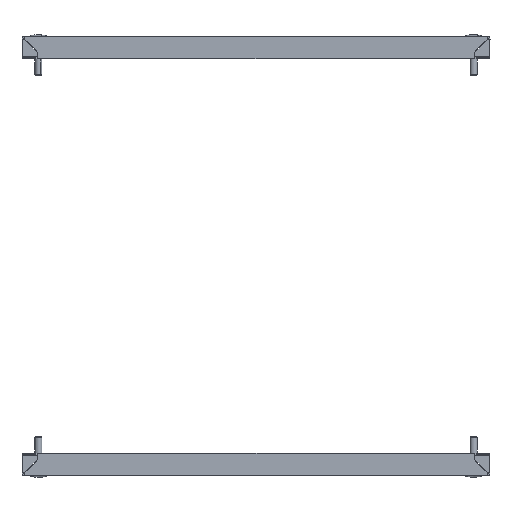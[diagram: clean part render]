
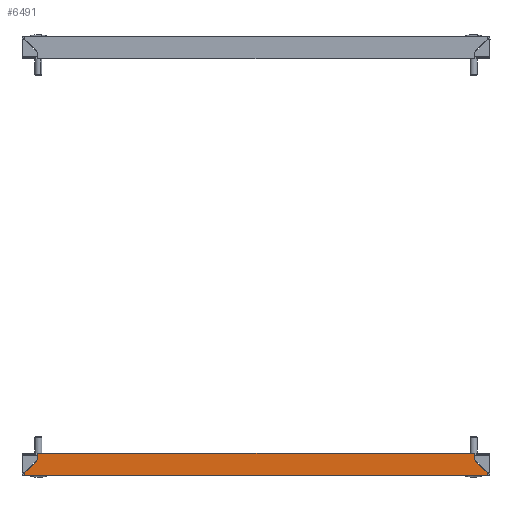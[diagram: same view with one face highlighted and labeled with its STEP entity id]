
A CAD part, front view. The second image highlights one B-rep face of the part: STEP entity #6491.
In plain terms, the highlighted planar face has unit normal (0, -1, 0).
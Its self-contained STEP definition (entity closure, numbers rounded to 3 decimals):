
#262 = EDGE_CURVE ( 'NONE', #727, #4388, #1303, .T. ) ;
#343 = CARTESIAN_POINT ( 'NONE',  ( -186.5, -50., 11.646 ) ) ;
#649 = CARTESIAN_POINT ( 'NONE',  ( 0., -50., 0. ) ) ;
#660 = CARTESIAN_POINT ( 'NONE',  ( -197.723, -50., -1.5 ) ) ;
#727 = VERTEX_POINT ( 'NONE', #3698 ) ;
#908 = VERTEX_POINT ( 'NONE', #4387 ) ;
#1300 = ORIENTED_EDGE ( 'NONE', *, *, #8049, .T. ) ;
#1303 = LINE ( 'NONE', #3663, #1768 ) ;
#1416 = CARTESIAN_POINT ( 'NONE',  ( -186.5, -50., 11.646 ) ) ;
#1666 = VECTOR ( 'NONE', #3414, 1000. ) ;
#1768 = VECTOR ( 'NONE', #3708, 1000. ) ;
#1809 = CARTESIAN_POINT ( 'NONE',  ( 186.5, -50., 11.646 ) ) ;
#1975 = VERTEX_POINT ( 'NONE', #5805 ) ;
#2116 = CARTESIAN_POINT ( 'NONE',  ( 186.5, -50., 17.5 ) ) ;
#2277 = CARTESIAN_POINT ( 'NONE',  ( 197.621, -50., -0.099 ) ) ;
#2329 = CARTESIAN_POINT ( 'NONE',  ( -197.681, -50., -0.799 ) ) ;
#2787 = EDGE_CURVE ( 'NONE', #5405, #908, #7975, .T. ) ;
#2804 = EDGE_CURVE ( 'NONE', #5405, #3272, #6114, .T. ) ;
#2821 = DIRECTION ( 'NONE',  ( 0., 1., 0. ) ) ;
#2883 = CARTESIAN_POINT ( 'NONE',  ( 197.704, -50., -1.149 ) ) ;
#2963 = CARTESIAN_POINT ( 'NONE',  ( 0., -50., 17.5 ) ) ;
#3242 = VERTEX_POINT ( 'NONE', #2116 ) ;
#3272 = VERTEX_POINT ( 'NONE', #1416 ) ;
#3414 = DIRECTION ( 'NONE',  ( 0., 0., -1. ) ) ;
#3458 = ORIENTED_EDGE ( 'NONE', *, *, #262, .F. ) ;
#3663 = CARTESIAN_POINT ( 'NONE',  ( -82.084, -50., 280.23 ) ) ;
#3698 = CARTESIAN_POINT ( 'NONE',  ( 186.5, -50., 11.646 ) ) ;
#3708 = DIRECTION ( 'NONE',  ( 0.707, 0., -0.707 ) ) ;
#3876 = CARTESIAN_POINT ( 'NONE',  ( 0., -50., -1.5 ) ) ;
#3916 = VERTEX_POINT ( 'NONE', #6076 ) ;
#4367 = DIRECTION ( 'NONE',  ( -1., 0., 0. ) ) ;
#4368 = PLANE ( 'NONE',  #6851 ) ;
#4387 = CARTESIAN_POINT ( 'NONE',  ( -197.723, -50., -1.5 ) ) ;
#4388 = VERTEX_POINT ( 'NONE', #6543 ) ;
#4435 = CARTESIAN_POINT ( 'NONE',  ( -197.546, -50., 0.6 ) ) ;
#4494 = EDGE_CURVE ( 'NONE', #3916, #3272, #8016, .T. ) ;
#4536 = CARTESIAN_POINT ( 'NONE',  ( 197.681, -50., -0.799 ) ) ;
#4613 = EDGE_CURVE ( 'NONE', #3242, #3916, #5133, .T. ) ;
#5029 = ORIENTED_EDGE ( 'NONE', *, *, #5315, .T. ) ;
#5133 = LINE ( 'NONE', #2963, #8584 ) ;
#5315 = EDGE_CURVE ( 'NONE', #908, #1975, #5338, .T. ) ;
#5338 = LINE ( 'NONE', #3876, #8918 ) ;
#5362 = EDGE_CURVE ( 'NONE', #4388, #1975, #7437, .T. ) ;
#5394 = CARTESIAN_POINT ( 'NONE',  ( -197.704, -50., -1.149 ) ) ;
#5405 = VERTEX_POINT ( 'NONE', #4435 ) ;
#5805 = CARTESIAN_POINT ( 'NONE',  ( 197.723, -50., -1.5 ) ) ;
#5889 = DIRECTION ( 'NONE',  ( 0., 0., 1. ) ) ;
#6076 = CARTESIAN_POINT ( 'NONE',  ( -186.5, -50., 17.5 ) ) ;
#6114 = LINE ( 'NONE', #9178, #9691 ) ;
#6245 = ORIENTED_EDGE ( 'NONE', *, *, #4494, .T. ) ;
#6491 = ADVANCED_FACE ( 'NONE', ( #6698 ), #4368, .F. ) ;
#6543 = CARTESIAN_POINT ( 'NONE',  ( 197.546, -50., 0.6 ) ) ;
#6579 = ORIENTED_EDGE ( 'NONE', *, *, #4613, .T. ) ;
#6698 = FACE_OUTER_BOUND ( 'NONE', #9027, .T. ) ;
#6851 = AXIS2_PLACEMENT_3D ( 'NONE', #649, #2821, #5889 ) ;
#6865 = CARTESIAN_POINT ( 'NONE',  ( -197.621, -50., -0.099 ) ) ;
#6904 = ORIENTED_EDGE ( 'NONE', *, *, #5362, .F. ) ;
#7437 = B_SPLINE_CURVE_WITH_KNOTS ( 'NONE', 3,
 ( #8281, #9126, #2277, #4536, #2883, #7633 ),
 .UNSPECIFIED., .F., .F.,
 ( 4, 2, 4 ),
 ( 0.005, 0.006, 0.008 ),
 .UNSPECIFIED. ) ;
#7521 = VECTOR ( 'NONE', #8066, 1000. ) ;
#7633 = CARTESIAN_POINT ( 'NONE',  ( 197.723, -50., -1.5 ) ) ;
#7688 = DIRECTION ( 'NONE',  ( 0.707, 0., 0.707 ) ) ;
#7975 = B_SPLINE_CURVE_WITH_KNOTS ( 'NONE', 3,
 ( #9221, #8204, #6865, #2329, #5394, #660 ),
 .UNSPECIFIED., .F., .F.,
 ( 4, 2, 4 ),
 ( 0.005, 0.006, 0.008 ),
 .UNSPECIFIED. ) ;
#8016 = LINE ( 'NONE', #343, #1666 ) ;
#8049 = EDGE_CURVE ( 'NONE', #727, #3242, #8814, .T. ) ;
#8066 = DIRECTION ( 'NONE',  ( 0., 0., 1. ) ) ;
#8204 = CARTESIAN_POINT ( 'NONE',  ( -197.584, -50., 0.251 ) ) ;
#8281 = CARTESIAN_POINT ( 'NONE',  ( 197.546, -50., 0.6 ) ) ;
#8462 = ORIENTED_EDGE ( 'NONE', *, *, #2804, .F. ) ;
#8584 = VECTOR ( 'NONE', #4367, 1000. ) ;
#8814 = LINE ( 'NONE', #1809, #7521 ) ;
#8918 = VECTOR ( 'NONE', #9870, 1000. ) ;
#8946 = ORIENTED_EDGE ( 'NONE', *, *, #2787, .T. ) ;
#9027 = EDGE_LOOP ( 'NONE', ( #3458, #1300, #6579, #6245, #8462, #8946, #5029, #6904 ) ) ;
#9126 = CARTESIAN_POINT ( 'NONE',  ( 197.584, -50., 0.251 ) ) ;
#9178 = CARTESIAN_POINT ( 'NONE',  ( -197.546, -50., 0.6 ) ) ;
#9221 = CARTESIAN_POINT ( 'NONE',  ( -197.546, -50., 0.6 ) ) ;
#9691 = VECTOR ( 'NONE', #7688, 1000. ) ;
#9870 = DIRECTION ( 'NONE',  ( 1., 0., 0. ) ) ;
